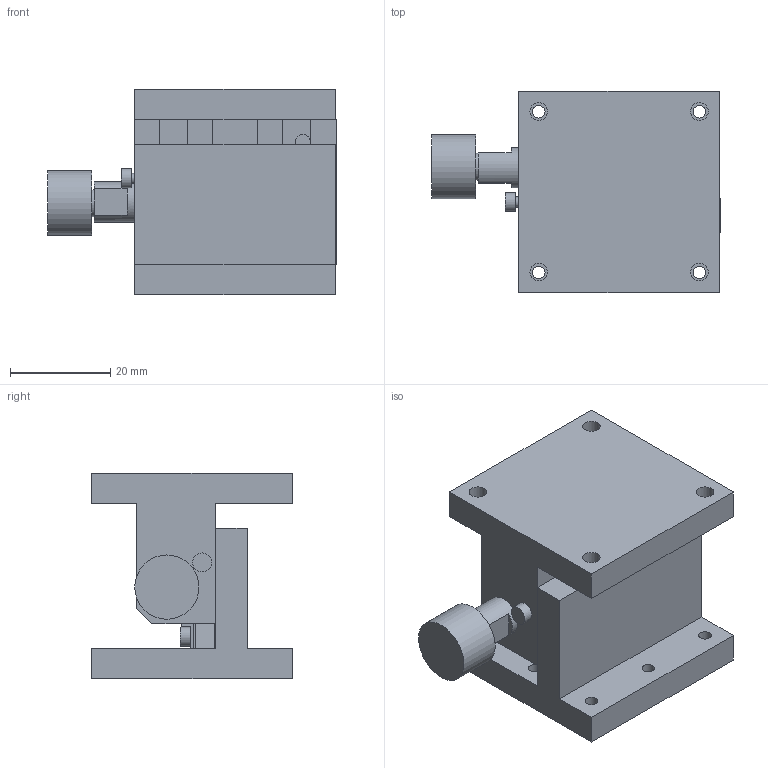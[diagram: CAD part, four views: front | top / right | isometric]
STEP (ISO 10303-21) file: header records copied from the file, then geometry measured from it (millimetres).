
FILE_DESCRIPTION( ( 'STEP AP203' ), '1' );
FILE_NAME( 'C:/3D-Trans/3D_B07-2N+090209.step', '2009-02-09T07:48:01', ( ' ' ), ( ' ' ), 'XStep 1.0', ' ', ' ' );
FILE_SCHEMA( ( 'CONFIG_CONTROL_DESIGN' ) );
Length unit declared in the file: millimetre
Products named in the file (3): 1; 2; 3
Bounding box: 57.45 x 40 x 41 mm (x, y, z)
Volume: 39542.5 mm3; surface area: 16634.7 mm2
Topology: 3 solids, 3 shells, 124 faces, 319 edges, 218 vertices
Faces by surface type: plane 88, cylinder 34, cone 2
Full cylindrical faces by diameter (mm): 2 x2, 2.5 x8, 3 x2, 3.5 x6, 3.8 x3, 5 x1, 5.4 x2, 6 x4, 7.4 x1, 7.5 x1, 8 x1, 12.8 x1
Entity records: 3605 total; most frequent: DIRECTION 591, CARTESIAN_POINT 587, ORIENTED_EDGE 526, EDGE_CURVE 263, AXIS2_PLACEMENT_3D 201, EDGE_LOOP 201, VERTEX_POINT 197, LINE 189
